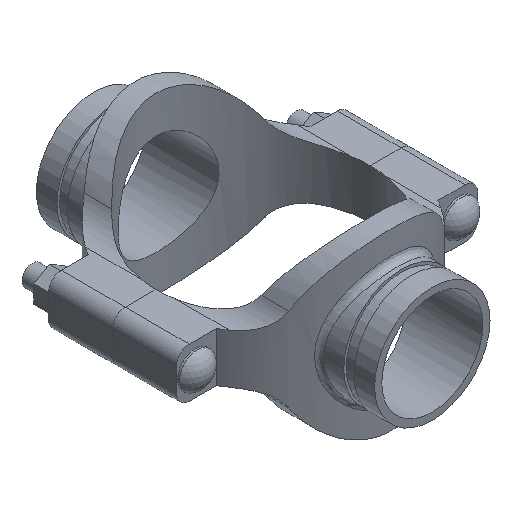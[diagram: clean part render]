
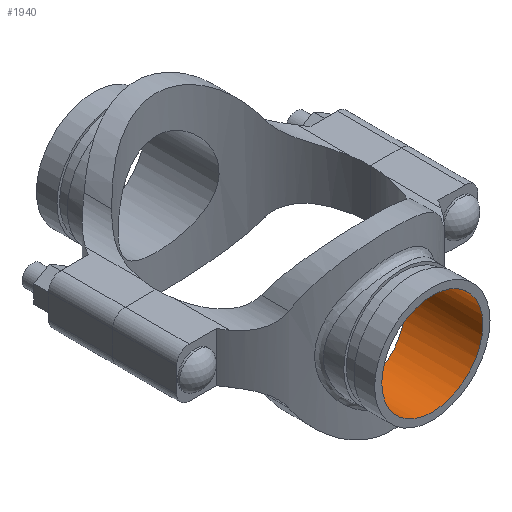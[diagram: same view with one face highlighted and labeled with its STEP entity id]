
A CAD part, isometric view. The second image highlights one B-rep face of the part: STEP entity #1940.
In plain terms, the highlighted cylindrical face has radius 38.894 mm (diameter 77.787 mm), a full revolution.
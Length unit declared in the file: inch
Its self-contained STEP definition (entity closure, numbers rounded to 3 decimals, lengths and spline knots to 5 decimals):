
#48=B_SPLINE_CURVE_WITH_KNOTS('',3,(#3972,#3973,#3974,#3975,#3976,#3977,
#3978,#3979,#3980,#3981,#3982,#3983,#3984,#3985,#3986,#3987,#3988,#3989,
#3990,#3991,#3992,#3993,#3994,#3995,#3996,#3997,#3998,#3999,#4000,#4001,
#4002,#4003,#4004,#4005,#4006,#4007,#4008,#4009,#4010,#4011,#4012,#4013,
#4014,#4015,#4016,#4017,#4018,#4019,#4020,#4021,#4022,#4023,#4024,#4025,
#4026,#4027,#4028,#4029,#4030,#4031,#4032,#4033,#4034,#4035,#4036,#4037),
 .UNSPECIFIED.,.T.,.F.,(4,2,2,2,2,2,2,2,2,2,2,2,2,2,2,2,2,2,2,2,2,2,2,2,
2,2,2,2,2,2,2,2,4),(0.,0.74639,1.49279,2.23918,
2.98558,3.73042,4.47526,5.2201,5.96494,
6.70978,7.45462,8.19946,8.9443,9.6907,
10.43709,11.18349,11.92988,12.67628,13.42267,
14.16907,14.91546,15.6603,16.40514,17.14998,
17.89482,18.63966,19.3845,20.12935,20.87419,
21.62058,22.36698,23.11337,23.85977),
 .UNSPECIFIED.);
#91=CYLINDRICAL_SURFACE('',#2173,1.53125);
#206=FACE_OUTER_BOUND('',#326,.T.);
#326=EDGE_LOOP('',(#1556,#1557,#1558,#1559));
#474=LINE('',#3971,#620);
#620=VECTOR('',#2628,1.53125);
#720=CIRCLE('',#2174,1.53125);
#881=VERTEX_POINT('',#3968);
#882=VERTEX_POINT('',#3970);
#1120=EDGE_CURVE('',#881,#881,#720,.T.);
#1121=EDGE_CURVE('',#881,#882,#474,.T.);
#1122=EDGE_CURVE('',#882,#882,#48,.T.);
#1556=ORIENTED_EDGE('',*,*,#1120,.F.);
#1557=ORIENTED_EDGE('',*,*,#1121,.T.);
#1558=ORIENTED_EDGE('',*,*,#1122,.F.);
#1559=ORIENTED_EDGE('',*,*,#1121,.F.);
#1940=ADVANCED_FACE('',(#206),#91,.F.);
#2173=AXIS2_PLACEMENT_3D('',#3967,#2624,#2625);
#2174=AXIS2_PLACEMENT_3D('',#3969,#2626,#2627);
#2624=DIRECTION('center_axis',(0.,-1.,0.));
#2625=DIRECTION('ref_axis',(-1.,0.,0.));
#2626=DIRECTION('center_axis',(0.,-1.,0.));
#2627=DIRECTION('ref_axis',(-1.,0.,0.));
#2628=DIRECTION('',(0.,-1.,0.));
#3967=CARTESIAN_POINT('Origin',(0.,5.13,0.));
#3968=CARTESIAN_POINT('',(1.53125,5.13,0.));
#3969=CARTESIAN_POINT('Origin',(0.,5.13,0.));
#3970=CARTESIAN_POINT('',(1.53125,2.86667,0.));
#3971=CARTESIAN_POINT('',(1.53125,5.13,0.));
#3972=CARTESIAN_POINT('Ctrl Pts',(1.53125,2.86667,0.));
#3973=CARTESIAN_POINT('Ctrl Pts',(1.53125,2.86667,-0.09795));
#3974=CARTESIAN_POINT('Ctrl Pts',(1.5217,2.87183,-0.19863));
#3975=CARTESIAN_POINT('Ctrl Pts',(1.48216,2.89244,-0.39777));
#3976=CARTESIAN_POINT('Ctrl Pts',(1.45219,2.90784,-0.49625));
#3977=CARTESIAN_POINT('Ctrl Pts',(1.37364,2.94576,-0.68428));
#3978=CARTESIAN_POINT('Ctrl Pts',(1.325,2.96826,-0.77401));
#3979=CARTESIAN_POINT('Ctrl Pts',(1.21316,3.0157,-0.93965));
#3980=CARTESIAN_POINT('Ctrl Pts',(1.14995,3.04059,-1.01556));
#3981=CARTESIAN_POINT('Ctrl Pts',(1.0157,3.08803,-1.14981));
#3982=CARTESIAN_POINT('Ctrl Pts',(0.93986,3.11232,-1.21301));
#3983=CARTESIAN_POINT('Ctrl Pts',(0.77419,3.15761,-1.3249));
#3984=CARTESIAN_POINT('Ctrl Pts',(0.68436,3.17857,-1.3736));
#3985=CARTESIAN_POINT('Ctrl Pts',(0.49612,3.21334,-1.45224));
#3986=CARTESIAN_POINT('Ctrl Pts',(0.39754,3.22714,-1.48223));
#3987=CARTESIAN_POINT('Ctrl Pts',(0.19836,3.24548,-1.52174));
#3988=CARTESIAN_POINT('Ctrl Pts',(0.09775,3.25,-1.53125));
#3989=CARTESIAN_POINT('Ctrl Pts',(-0.09775,3.25,-1.53125));
#3990=CARTESIAN_POINT('Ctrl Pts',(-0.19836,3.24548,-1.52174));
#3991=CARTESIAN_POINT('Ctrl Pts',(-0.39754,3.22714,-1.48223));
#3992=CARTESIAN_POINT('Ctrl Pts',(-0.49612,3.21334,-1.45224));
#3993=CARTESIAN_POINT('Ctrl Pts',(-0.68436,3.17857,-1.3736));
#3994=CARTESIAN_POINT('Ctrl Pts',(-0.77419,3.15761,-1.3249));
#3995=CARTESIAN_POINT('Ctrl Pts',(-0.93986,3.11232,-1.21301));
#3996=CARTESIAN_POINT('Ctrl Pts',(-1.0157,3.08803,-1.14981));
#3997=CARTESIAN_POINT('Ctrl Pts',(-1.14995,3.04059,-1.01556));
#3998=CARTESIAN_POINT('Ctrl Pts',(-1.21316,3.0157,-0.93965));
#3999=CARTESIAN_POINT('Ctrl Pts',(-1.325,2.96826,-0.77401));
#4000=CARTESIAN_POINT('Ctrl Pts',(-1.37364,2.94576,-0.68428));
#4001=CARTESIAN_POINT('Ctrl Pts',(-1.45219,2.90784,-0.49625));
#4002=CARTESIAN_POINT('Ctrl Pts',(-1.48216,2.89244,-0.39777));
#4003=CARTESIAN_POINT('Ctrl Pts',(-1.5217,2.87183,-0.19863));
#4004=CARTESIAN_POINT('Ctrl Pts',(-1.53125,2.86667,-0.09795));
#4005=CARTESIAN_POINT('Ctrl Pts',(-1.53125,2.86667,0.09795));
#4006=CARTESIAN_POINT('Ctrl Pts',(-1.5217,2.87183,0.19863));
#4007=CARTESIAN_POINT('Ctrl Pts',(-1.48216,2.89244,0.39777));
#4008=CARTESIAN_POINT('Ctrl Pts',(-1.45219,2.90784,0.49625));
#4009=CARTESIAN_POINT('Ctrl Pts',(-1.37364,2.94576,0.68428));
#4010=CARTESIAN_POINT('Ctrl Pts',(-1.325,2.96826,0.77401));
#4011=CARTESIAN_POINT('Ctrl Pts',(-1.21316,3.0157,0.93965));
#4012=CARTESIAN_POINT('Ctrl Pts',(-1.14995,3.04059,1.01556));
#4013=CARTESIAN_POINT('Ctrl Pts',(-1.0157,3.08803,1.14981));
#4014=CARTESIAN_POINT('Ctrl Pts',(-0.93986,3.11232,1.21301));
#4015=CARTESIAN_POINT('Ctrl Pts',(-0.77419,3.15761,1.3249));
#4016=CARTESIAN_POINT('Ctrl Pts',(-0.68436,3.17857,1.3736));
#4017=CARTESIAN_POINT('Ctrl Pts',(-0.49612,3.21334,1.45224));
#4018=CARTESIAN_POINT('Ctrl Pts',(-0.39754,3.22714,1.48223));
#4019=CARTESIAN_POINT('Ctrl Pts',(-0.19836,3.24548,1.52174));
#4020=CARTESIAN_POINT('Ctrl Pts',(-0.09775,3.25,1.53125));
#4021=CARTESIAN_POINT('Ctrl Pts',(0.09775,3.25,1.53125));
#4022=CARTESIAN_POINT('Ctrl Pts',(0.19836,3.24548,1.52174));
#4023=CARTESIAN_POINT('Ctrl Pts',(0.39754,3.22714,1.48223));
#4024=CARTESIAN_POINT('Ctrl Pts',(0.49612,3.21334,1.45224));
#4025=CARTESIAN_POINT('Ctrl Pts',(0.68436,3.17857,1.3736));
#4026=CARTESIAN_POINT('Ctrl Pts',(0.77419,3.15761,1.3249));
#4027=CARTESIAN_POINT('Ctrl Pts',(0.93986,3.11232,1.21301));
#4028=CARTESIAN_POINT('Ctrl Pts',(1.0157,3.08803,1.14981));
#4029=CARTESIAN_POINT('Ctrl Pts',(1.14995,3.04059,1.01556));
#4030=CARTESIAN_POINT('Ctrl Pts',(1.21316,3.0157,0.93965));
#4031=CARTESIAN_POINT('Ctrl Pts',(1.325,2.96826,0.77401));
#4032=CARTESIAN_POINT('Ctrl Pts',(1.37364,2.94576,0.68428));
#4033=CARTESIAN_POINT('Ctrl Pts',(1.45219,2.90784,0.49625));
#4034=CARTESIAN_POINT('Ctrl Pts',(1.48216,2.89244,0.39777));
#4035=CARTESIAN_POINT('Ctrl Pts',(1.5217,2.87183,0.19863));
#4036=CARTESIAN_POINT('Ctrl Pts',(1.53125,2.86667,0.09795));
#4037=CARTESIAN_POINT('Ctrl Pts',(1.53125,2.86667,0.));
